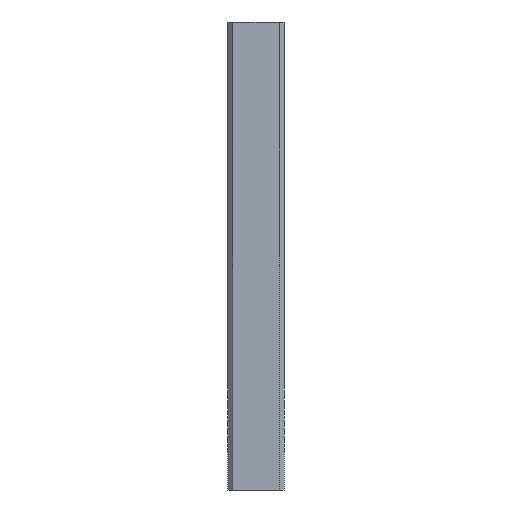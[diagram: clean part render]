
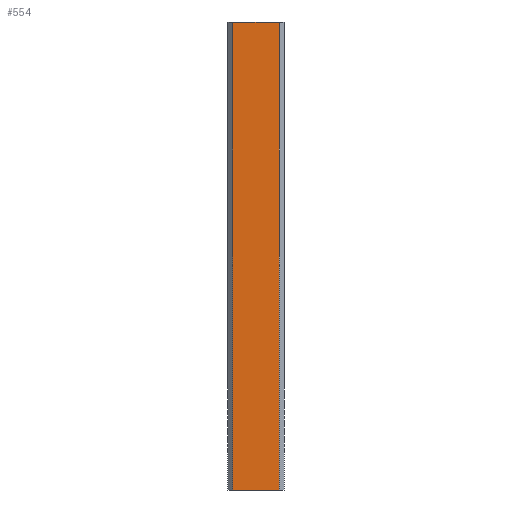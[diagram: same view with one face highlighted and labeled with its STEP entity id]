
A CAD part, left-side view. The second image highlights one B-rep face of the part: STEP entity #554.
In plain terms, the highlighted planar face has unit normal (-1, 0, 0).
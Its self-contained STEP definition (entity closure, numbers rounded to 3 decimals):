
#34 = ORIENTED_EDGE ( 'NONE', *, *, #265, .F. ) ;
#45 = CARTESIAN_POINT ( 'NONE',  ( -29., 6., 25. ) ) ;
#195 = LINE ( 'NONE', #223, #751 ) ;
#207 = VECTOR ( 'NONE', #1297, 1000. ) ;
#223 = CARTESIAN_POINT ( 'NONE',  ( -29., 0.5, 25. ) ) ;
#265 = EDGE_CURVE ( 'NONE', #292, #804, #1262, .T. ) ;
#285 = LINE ( 'NONE', #718, #207 ) ;
#292 = VERTEX_POINT ( 'NONE', #712 ) ;
#328 = LINE ( 'NONE', #1463, #1337 ) ;
#330 = EDGE_CURVE ( 'NONE', #292, #1792, #285, .T. ) ;
#347 = FACE_OUTER_BOUND ( 'NONE', #1066, .T. ) ;
#370 = ORIENTED_EDGE ( 'NONE', *, *, #563, .T. ) ;
#376 = ORIENTED_EDGE ( 'NONE', *, *, #1595, .T. ) ;
#410 = VERTEX_POINT ( 'NONE', #1763 ) ;
#510 = VECTOR ( 'NONE', #824, 1000. ) ;
#554 = ADVANCED_FACE ( 'NONE', ( #347 ), #954, .F. ) ;
#563 = EDGE_CURVE ( 'NONE', #410, #804, #195, .T. ) ;
#594 = DIRECTION ( 'NONE',  ( 0., -1., 0. ) ) ;
#610 = ORIENTED_EDGE ( 'NONE', *, *, #330, .T. ) ;
#712 = CARTESIAN_POINT ( 'NONE',  ( -29., 5.5, 25. ) ) ;
#718 = CARTESIAN_POINT ( 'NONE',  ( -29., 5.5, 25. ) ) ;
#751 = VECTOR ( 'NONE', #1637, 1000. ) ;
#804 = VERTEX_POINT ( 'NONE', #866 ) ;
#824 = DIRECTION ( 'NONE',  ( 0., -1., 0. ) ) ;
#866 = CARTESIAN_POINT ( 'NONE',  ( -29., 0.5, 25. ) ) ;
#885 = CARTESIAN_POINT ( 'NONE',  ( -29., 5.5, -25. ) ) ;
#933 = DIRECTION ( 'NONE',  ( 1., 0., 0. ) ) ;
#954 = PLANE ( 'NONE',  #1576 ) ;
#1066 = EDGE_LOOP ( 'NONE', ( #376, #370, #34, #610 ) ) ;
#1262 = LINE ( 'NONE', #1873, #510 ) ;
#1297 = DIRECTION ( 'NONE',  ( 0., 0., -1. ) ) ;
#1337 = VECTOR ( 'NONE', #594, 1000. ) ;
#1463 = CARTESIAN_POINT ( 'NONE',  ( -29., 6., -25. ) ) ;
#1509 = DIRECTION ( 'NONE',  ( 0., 0., -1. ) ) ;
#1576 = AXIS2_PLACEMENT_3D ( 'NONE', #45, #933, #1509 ) ;
#1595 = EDGE_CURVE ( 'NONE', #1792, #410, #328, .T. ) ;
#1637 = DIRECTION ( 'NONE',  ( 0., 0., 1. ) ) ;
#1763 = CARTESIAN_POINT ( 'NONE',  ( -29., 0.5, -25. ) ) ;
#1792 = VERTEX_POINT ( 'NONE', #885 ) ;
#1873 = CARTESIAN_POINT ( 'NONE',  ( -29., 6., 25. ) ) ;
